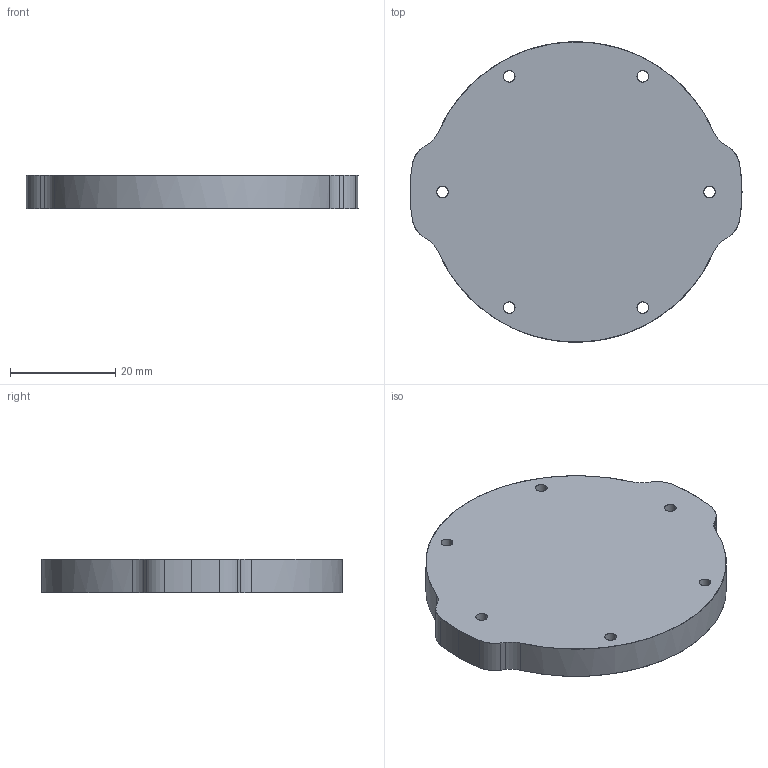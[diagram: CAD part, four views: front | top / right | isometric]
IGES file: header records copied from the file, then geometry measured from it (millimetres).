
Start section: SolidWorks IGES file using NURBS representation for surfaces
Global section: file name: C:\Users\rjehangir\Dropbox\BlueRobotics\BR-Engineering\Models\WTC-2-X1A -PUBLIC\WTC-P-END-CAP-2-R1.IGS; native system: SolidWorks 2012; preprocessor: SolidWorks 2012; author: rjehangir; date: 150712.191202; units: millimetre
Bounding box: 63.15 x 57.15 x 6.35 mm (x, y, z)
Surface area: 6740.2 mm2 (no closed solid volume)
Topology: 0 solids, 0 shells, 31 faces, 652 edges, 652 vertices
Faces by surface type: bspline 31
